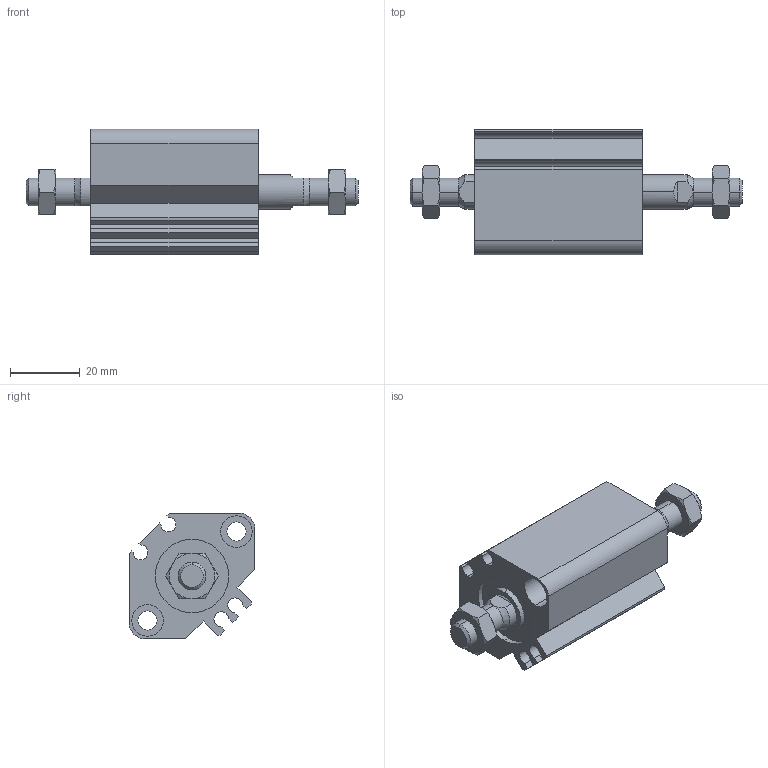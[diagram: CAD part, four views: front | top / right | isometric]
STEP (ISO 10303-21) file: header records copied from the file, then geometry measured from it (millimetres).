
FILE_DESCRIPTION (( 'STEP AP203' ), '1' );
FILE_NAME ('CCMB20-10M-P.STEP', '2020-08-10T11:20:17', ( '' ), ( '' ), 'SwSTEP 2.0', 'SolidWorks 2019', '' );
FILE_SCHEMA (( 'CONFIG_CONTROL_DESIGN' ));
Length unit declared in the file: millimetre
Products named in the file (1): CCMB20-10M-P
Bounding box: 95 x 36 x 36 mm (x, y, z)
Volume: 47325.3 mm3; surface area: 20260.6 mm2
Topology: 4 solids, 4 shells, 166 faces, 384 edges, 240 vertices
Faces by surface type: plane 66, cylinder 56, cone 44
Entity records: 5367 total; most frequent: CARTESIAN_POINT 1507, DIRECTION 806, ORIENTED_EDGE 768, EDGE_CURVE 384, AXIS2_PLACEMENT_3D 319, VERTEX_POINT 240, EDGE_LOOP 190, LINE 168
